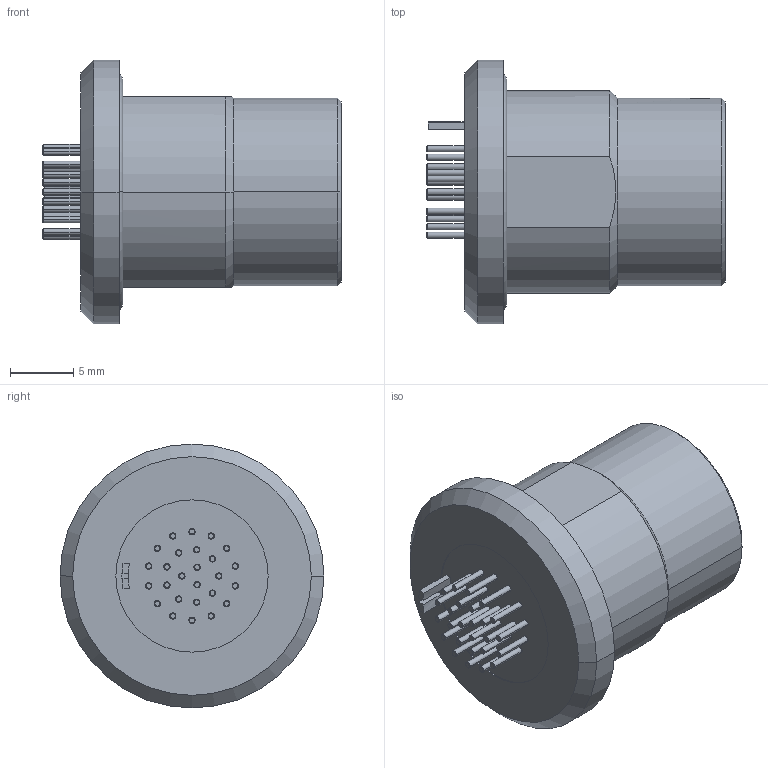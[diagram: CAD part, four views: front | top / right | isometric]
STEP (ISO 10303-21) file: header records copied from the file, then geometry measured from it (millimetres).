
FILE_DESCRIPTION((''),'2;1');
FILE_NAME('GK2Y_R-P26UC00-000L_WITHOUT-HEX','2020-10-23T12:31:16',('EUnterhaslberger'),(''),'CREO PARAMETRIC BY PTC INC, 2018300','CREO PARAMETRIC BY PTC INC, 2018300','');
FILE_SCHEMA(('AP242_MANAGED_MODEL_BASED_3D_ENGINEERING_MIM_LF { 1 0 10303 442 1 1 4 }'));
Length unit declared in the file: millimetre
Products named in the file (1): GK2Y_R-P26UC00-000L_WITHOUT-HEX
Bounding box: 23.5 x 20.8 x 20.8 mm (x, y, z)
Volume: 3284.9 mm3; surface area: 3185.5 mm2
Topology: 2 solids, 2 shells, 353 faces, 949 edges, 660 vertices
Faces by surface type: cylinder 156, plane 106, cone 67, torus 24
Entity records: 14083 total; most frequent: CARTESIAN_POINT 2236, DIRECTION 2181, ORIENTED_EDGE 1898, EDGE_CURVE 949, AXIS2_PLACEMENT_3D 931, VERTEX_POINT 660, CIRCLE 578, EDGE_LOOP 415
